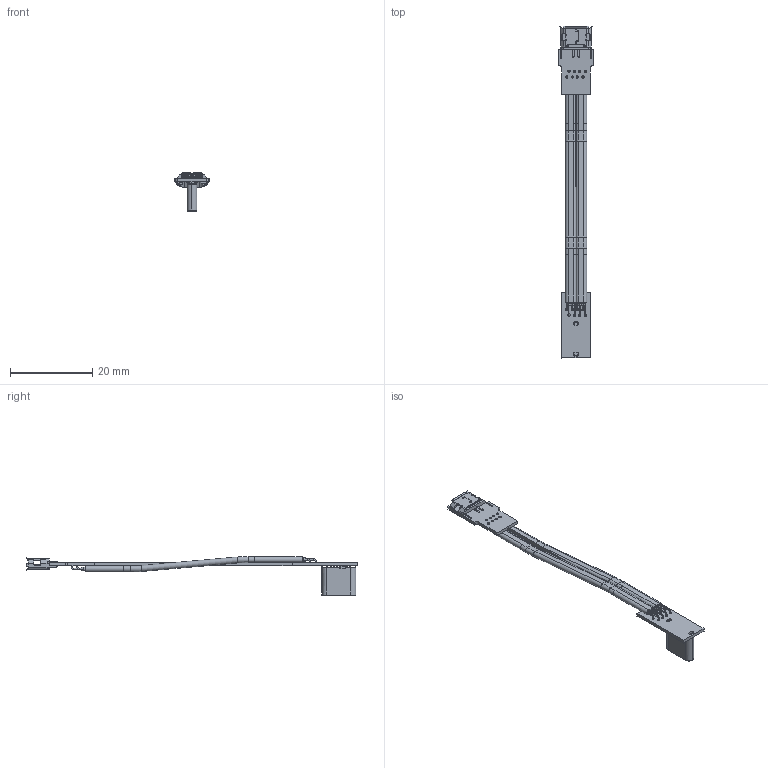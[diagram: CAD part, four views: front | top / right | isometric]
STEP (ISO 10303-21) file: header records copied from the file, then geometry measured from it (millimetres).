
FILE_DESCRIPTION(('Open CASCADE Model'),'2;1');
FILE_NAME('Open CASCADE Shape Model','2022-04-24T15:10:23',('Author'),( 'Open CASCADE'),'Open CASCADE STEP processor 6.8','Open CASCADE 6.8' ,'Unknown');
FILE_SCHEMA(('AUTOMOTIVE_DESIGN { 1 0 10303 214 1 1 1 1 }'));
Length unit declared in the file: millimetre
Products named in the file (86): PCB; Board; Open CASCADE STEP translator 6.8 4.1.1; Open CASCADE STEP translator 6.8 4.1.1.1; Designator22; Micro_usb_vetical_Crimping_20211215; Designator12; T2D-4_20211026; 12; 0603_RES; Capsule; Encapsulation; TopCover; C0603_060; Free-Models; 8_pin_S_20211217
Assembly tree (92 placements, depth 4):
  PCB
    Board
      Open CASCADE STEP translator 6.8 4.1.1
        Open CASCADE STEP translator 6.8 4.1.1.1
    Designator22
      Micro_usb_vetical_Crimping_20211215  x2
      Micro_usb_vetical_Crimping_20211215
      Micro_usb_vetical_Crimping_20211215  x2
      Micro_usb_vetical_Crimping_20211215
      Micro_usb_vetical_Crimping_20211215  x2
      Micro_usb_vetical_Crimping_20211215
      Micro_usb_vetical_Crimping_20211215  x2
      Micro_usb_vetical_Crimping_20211215
      Micro_usb_vetical_Crimping_20211215  x2
      Micro_usb_vetical_Crimping_20211215
      Micro_usb_vetical_Crimping_20211215  x2
      Micro_usb_vetical_Crimping_20211215
    Designator12
      T2D-4_20211026
      T2D-4_20211026
      T2D-4_20211026
      T2D-4_20211026
      T2D-4_20211026
      T2D-4_20211026
      T2D-4_20211026
      T2D-4_20211026
      T2D-4_20211026
      T2D-4_20211026
      T2D-4_20211026
      T2D-4_20211026
      T2D-4_20211026
      T2D-4_20211026
      T2D-4_20211026
      T2D-4_20211026
      T2D-4_20211026
      T2D-4_20211026
      T2D-4_20211026
      T2D-4_20211026
      T2D-4_20211026
      T2D-4_20211026
      T2D-4_20211026
      T2D-4_20211026
      T2D-4_20211026
      T2D-4_20211026
      T2D-4_20211026
      T2D-4_20211026
      T2D-4_20211026
      T2D-4_20211026
      T2D-4_20211026
      T2D-4_20211026
      T2D-4_20211026
      T2D-4_20211026
      T2D-4_20211026
      T2D-4_20211026
      T2D-4_20211026
      T2D-4_20211026
      T2D-4_20211026
      T2D-4_20211026
      T2D-4_20211026
      T2D-4_20211026
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Bounding box: 8.61 x 80.58 x 9.44 mm (x, y, z)
Volume: 611.6 mm3; surface area: 3886 mm2
Topology: 112 solids, 112 shells, 2042 faces, 5160 edges, 3330 vertices
Faces by surface type: plane 1225, cylinder 657, bspline 86, torus 58, extrusion 8, sphere 8
Full cylindrical faces by diameter (mm): 0.55 x16
Entity records: 66533 total; most frequent: CARTESIAN_POINT 10509, DIRECTION 8660, ORIENTED_EDGE 8460, EDGE_CURVE 4230, VECTOR 2938, LINE 2930, AXIS2_PLACEMENT_3D 2861, VERTEX_POINT 2742
